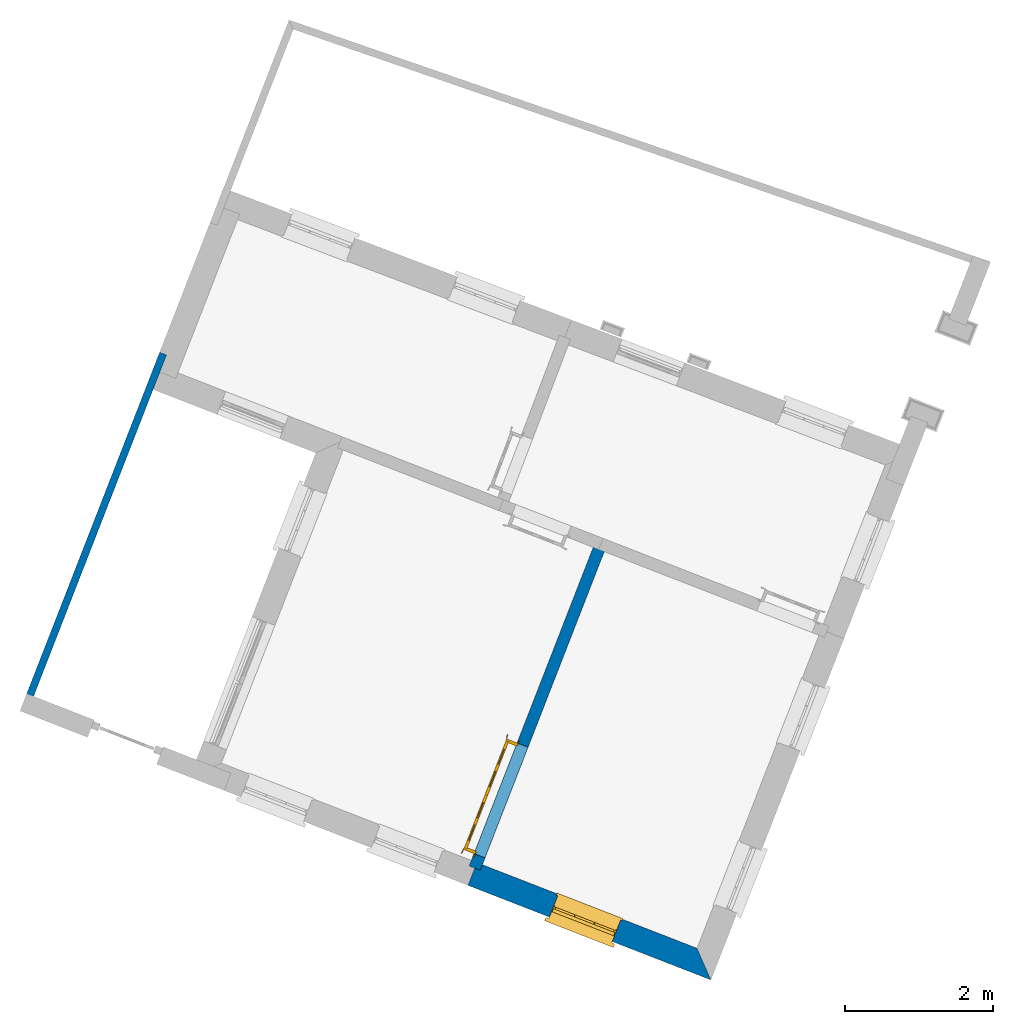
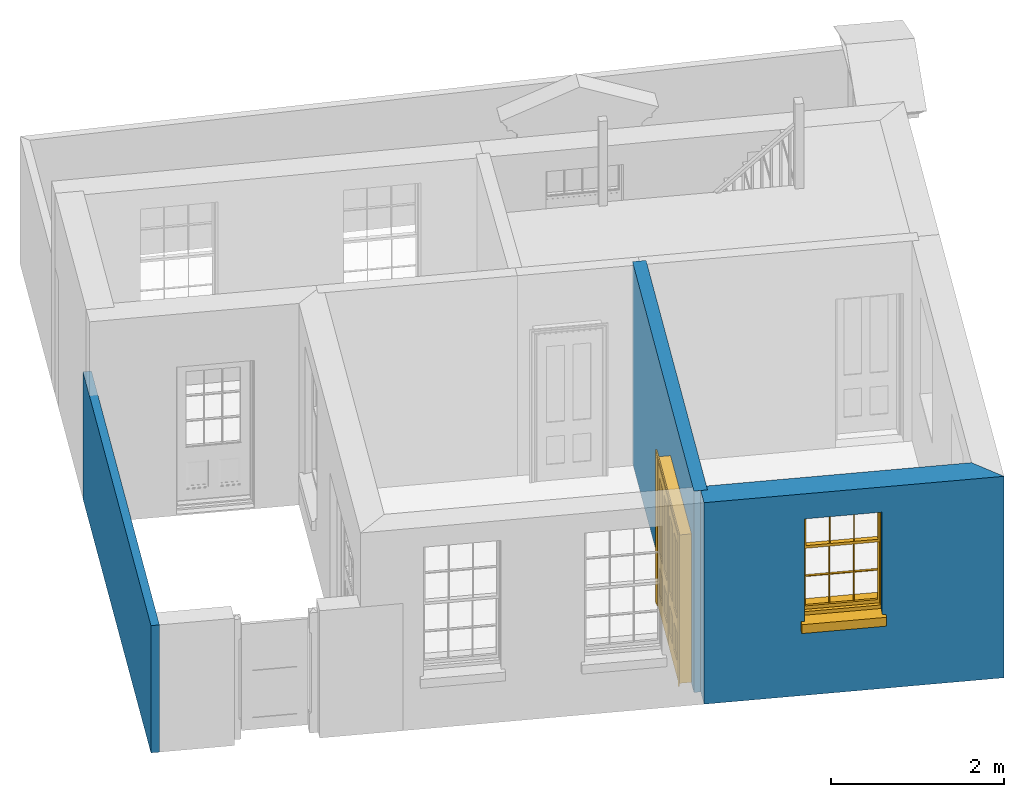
# One storey, part 2 of 10: 3 walls, 1 door, 1 window, 2 openings.
"""IFC4 building model written with IfcOpenShell, lengths in metres."""

import ifcopenshell
import ifcopenshell.guid

model = None  # the IFC model being written
_history = None  # IfcOwnerHistory: only IFC2X3 demands one
_inside = {}  # id of a spatial element -> (the spatial element, [elements in it])
_under = {}  # id of a project, library or spatial element -> (it, [spatial elements below it])
_declared = {}  # id of a project -> (the project, [libraries it declares])
_typed = {}  # id of a type object -> (the type object, [elements of that type])
_made_of = {}  # id of a material, layer set ... -> (it, [elements and type objects made of it])


def new_model(schema):
    """Start an empty IFC model of exactly this schema.

    Asked for "IFC4X3", IfcOpenShell would pick the latest addendum, in which some entities
    have other attributes; the version numbers below select the first issue.
    IFC2X3 requires an IfcOwnerHistory on every rooted entity: one is made here for all.
    """
    global model, _history
    if schema == "IFC4X3":
        model = ifcopenshell.file(schema_version=(4, 3, 0, 0))
    else:
        model = ifcopenshell.file(schema=schema)
    _inside.clear()
    _under.clear()
    _declared.clear()
    _typed.clear()
    _made_of.clear()
    _history = None
    if model.schema == "IFC2X3":
        org = make("IfcOrganization", Name="unknown")
        user = make(
            "IfcPersonAndOrganization",
            ThePerson=make("IfcPerson", FamilyName="unknown"),
            TheOrganization=org,
        )
        app = make(
            "IfcApplication",
            ApplicationDeveloper=org,
            Version="unknown",
            ApplicationFullName="unknown",
            ApplicationIdentifier="unknown",
        )
        _history = make(
            "IfcOwnerHistory",
            OwningUser=user,
            OwningApplication=app,
            ChangeAction="ADDED",
            CreationDate=0,
        )
    return model


def make(cls, **values):
    """One entity of the class cls with the attributes given. An attribute that is None is left unset."""
    return model.create_entity(
        cls, **{name: value for name, value in values.items() if value is not None}
    )


def rooted(cls, **values):
    """An entity with a GlobalId (a new one), such as an element, a storey or a relation."""
    return make(cls, GlobalId=ifcopenshell.guid.new(), OwnerHistory=_history, **values)


def si_unit(unit_type, name, prefix=None):
    """IfcSIUnit, for example si_unit("LENGTHUNIT", "METRE", prefix="MILLI")."""
    return make("IfcSIUnit", UnitType=unit_type, Prefix=prefix, Name=name)


def assignment(units):
    """IfcUnitAssignment: the units of a project."""
    return None if units is None else make("IfcUnitAssignment", Units=units)


def point(xyz):
    """IfcCartesianPoint."""
    return None if xyz is None else make("IfcCartesianPoint", Coordinates=xyz)


def direction(xyz):
    """IfcDirection."""
    return None if xyz is None else make("IfcDirection", DirectionRatios=xyz)


def frame(location, z_axis=None, x_axis=None):
    """IfcAxis2Placement3D, a coordinate frame: its origin and axes. An axis left out is left unset."""
    return make(
        "IfcAxis2Placement3D",
        Location=point(location),
        Axis=direction(z_axis),
        RefDirection=direction(x_axis),
    )


def origin():
    """The frame at (0, 0, 0) with its axes left unset."""
    return frame((0.0, 0.0, 0.0))


def origin_with_axes():
    """The frame at (0, 0, 0) with the z axis (0, 0, 1) and the x axis (1, 0, 0) written out."""
    return frame((0.0, 0.0, 0.0), z_axis=(0.0, 0.0, 1.0), x_axis=(1.0, 0.0, 0.0))


def place(relative_to, where):
    """IfcLocalPlacement: puts the frame where relative to a parent placement (None: the world)."""
    return make(
        "IfcLocalPlacement", PlacementRelTo=relative_to, RelativePlacement=where
    )


def context(
    kind, dimensions, precision=None, world=None, true_north=None, identifier=None
):
    """IfcGeometricRepresentationContext, for example the 3D "Model" context."""
    return make(
        "IfcGeometricRepresentationContext",
        ContextIdentifier=identifier,
        ContextType=kind,
        CoordinateSpaceDimension=dimensions,
        Precision=precision,
        WorldCoordinateSystem=world,
        TrueNorth=true_north,
    )


def subcontext(parent, identifier, kind, view, scale=None):
    """IfcGeometricRepresentationSubContext, for example "Body" below "Model"."""
    return make(
        "IfcGeometricRepresentationSubContext",
        ContextIdentifier=identifier,
        ContextType=kind,
        ParentContext=parent,
        TargetScale=scale,
        TargetView=view,
    )


def project(units=None, contexts=None):
    """IfcProject with its units and contexts."""
    return rooted(
        "IfcProject",
        Name="project",
        RepresentationContexts=contexts,
        UnitsInContext=assignment(units),
    )


def spatial(cls, under=None, at=None, **own):
    """A site, building, storey or space (cls), placed at a placement, below another one or the project."""
    s = rooted(cls, ObjectPlacement=at, **own)
    if under is not None:
        _under.setdefault(under.id(), (under, []))[1].append(s)
    return s


def polyline(points):
    """IfcPolyline through the points."""
    return make("IfcPolyline", Points=[point(p) for p in points])


def outline(outer, holes=None, kind="AREA"):
    """IfcArbitraryClosedProfileDef: a profile drawn as a closed curve; with holes, ...WithVoids."""
    if holes is None:
        return make("IfcArbitraryClosedProfileDef", ProfileType=kind, OuterCurve=outer)
    return make(
        "IfcArbitraryProfileDefWithVoids",
        ProfileType=kind,
        OuterCurve=outer,
        InnerCurves=holes,
    )


def extrude(swept, where, along, depth):
    """IfcExtrudedAreaSolid: the profile swept, set in the frame where, extruded along a direction by depth."""
    return make(
        "IfcExtrudedAreaSolid",
        SweptArea=swept,
        Position=where,
        ExtrudedDirection=direction(along),
        Depth=depth,
    )


def faces_of(points, faces, orient=None, outer=None):
    """IfcFace entities. A face is a list of loops; a loop is a list of indices into points, from 0.

    orient and outer hold one flag for each loop. By default every Orientation is true, the
    first loop of a face is its IfcFaceOuterBound and the others are IfcFaceBound.
    """
    made = []
    for i, loops in enumerate(faces):
        bounds = []
        for j, loop in enumerate(loops):
            is_outer = j == 0 if outer is None else outer[i][j]
            bounds.append(
                make(
                    "IfcFaceOuterBound" if is_outer else "IfcFaceBound",
                    Bound=make("IfcPolyLoop", Polygon=[points[k] for k in loop]),
                    Orientation=True if orient is None else orient[i][j],
                )
            )
        made.append(make("IfcFace", Bounds=bounds))
    return made


def faceted_brep(points, faces, orient=None, outer=None, voids=None):
    """IfcFacetedBrep: a solid bounded by flat faces; with voids (closed shells), ...WithVoids."""
    shared = [point(p) for p in points]
    hull = make("IfcClosedShell", CfsFaces=faces_of(shared, faces, orient, outer))
    if voids is None:
        return make("IfcFacetedBrep", Outer=hull)
    return make(
        "IfcFacetedBrepWithVoids",
        Outer=hull,
        Voids=[
            make(cls, CfsFaces=faces_of(shared, fs, o, b)) for cls, fs, o, b in voids
        ],
    )


def shape(context_of_items, identifier, shape_type, items):
    """IfcShapeRepresentation: the items that make up one representation, for example the "Body"."""
    return make(
        "IfcShapeRepresentation",
        ContextOfItems=context_of_items,
        RepresentationIdentifier=identifier,
        RepresentationType=shape_type,
        Items=items,
    )


def source(mapping_origin, context_of_items, identifier, shape_type, items):
    """IfcRepresentationMap: a shape defined once, which mapped items show again and again."""
    return make(
        "IfcRepresentationMap",
        MappingOrigin=mapping_origin,
        MappedRepresentation=shape(context_of_items, identifier, shape_type, items),
    )


def transform(
    local_origin,
    x_axis=None,
    y_axis=None,
    z_axis=None,
    scale=None,
    scale2=None,
    scale3=None,
    uniform=True,
):
    """IfcCartesianTransformationOperator3D, or its non-uniform kind. x_axis, y_axis, z_axis: its Axis1, 2, 3."""
    if uniform:
        return make(
            "IfcCartesianTransformationOperator3D",
            Axis1=direction(x_axis),
            Axis2=direction(y_axis),
            LocalOrigin=point(local_origin),
            Scale=scale,
            Axis3=direction(z_axis),
        )
    return make(
        "IfcCartesianTransformationOperator3DnonUniform",
        Axis1=direction(x_axis),
        Axis2=direction(y_axis),
        LocalOrigin=point(local_origin),
        Scale=scale,
        Axis3=direction(z_axis),
        Scale2=scale2,
        Scale3=scale3,
    )


def mapped(mapping_source, mapping_target):
    """IfcMappedItem: shows the shape of a source again, moved by a transform."""
    return make(
        "IfcMappedItem", MappingSource=mapping_source, MappingTarget=mapping_target
    )


def material(Name=None, Category=None):
    """IfcMaterial."""
    return make("IfcMaterial", Name=Name, Category=Category)


def layer(
    of_material, thickness, ventilated=None, Name=None, Category=None, Priority=None
):
    """IfcMaterialLayer: one layer of a wall or slab, of a material (None: an air gap)."""
    return make(
        "IfcMaterialLayer",
        Material=of_material,
        LayerThickness=thickness,
        IsVentilated=ventilated,
        Name=Name,
        Category=Category,
        Priority=Priority,
    )


def layer_set(layers, Name=None):
    """IfcMaterialLayerSet."""
    return make("IfcMaterialLayerSet", MaterialLayers=layers, LayerSetName=Name)


def layer_usage(for_layer_set, set_direction, sense, offset, extent=None):
    """IfcMaterialLayerSetUsage: how a layer set lies in its element."""
    return make(
        "IfcMaterialLayerSetUsage",
        ForLayerSet=for_layer_set,
        LayerSetDirection=set_direction,
        DirectionSense=sense,
        OffsetFromReferenceLine=offset,
        ReferenceExtent=extent,
    )


def made_of(thing, what):
    """Note that an element or type object is made of a material, layer set ...; save() writes the relation."""
    if what is not None:
        _made_of.setdefault(what.id(), (what, []))[1].append(thing)
    return thing


def type_object(cls, material=None, **own):
    """A type object (cls), such as IfcWallType, which elements share."""
    return made_of(rooted(cls, **own), material)


def type_shapes(of_type, sources):
    """Give a type object the sources (RepresentationMaps) that its elements show as mapped items."""
    of_type.RepresentationMaps = sources


def element(
    cls,
    number,
    at=None,
    inside=None,
    cuts=None,
    type_object=None,
    material=None,
    context=None,
    identifier="Body",
    shape_type=None,
    held_by="IfcProductDefinitionShape",
    body=None,
    shapes=None,
    **own,
):
    """One element of the class cls, such as IfcWall. Its Tag is "e" and its number.

    at: its placement. inside: the storey or other place that contains it. cuts: it is an
    opening in that element (IfcRelVoidsElement). A single representation is given by context,
    identifier, shape_type and body (its items); several are given by shapes. held_by: the class
    of the entity that holds the representations. save() writes the other relations.
    """
    e = rooted(cls, Tag="e%d" % number, ObjectPlacement=at, **own)
    if body is not None:
        shapes = [shape(context, identifier, shape_type, body)]
    if shapes is not None:
        e.Representation = make(held_by, Representations=shapes)
    if inside is not None:
        _inside.setdefault(inside.id(), (inside, []))[1].append(e)
    if cuts is not None:
        rooted(
            "IfcRelVoidsElement", RelatingBuildingElement=cuts, RelatedOpeningElement=e
        )
    if type_object is not None:
        _typed.setdefault(type_object.id(), (type_object, []))[1].append(e)
    return made_of(e, material)


def fill(opening, filler):
    """IfcRelFillsElement: the door or window that sits in an opening."""
    return rooted(
        "IfcRelFillsElement",
        RelatingOpeningElement=opening,
        RelatedBuildingElement=filler,
    )


def aggregate(whole, parts):
    """IfcRelAggregates: a whole, such as a stair, and the parts it consists of."""
    return rooted("IfcRelAggregates", RelatingObject=whole, RelatedObjects=parts)


def save(model, path):
    """Write the relations noted so far, then the file.

    IfcRelAggregates (storeys below a building ...), IfcRelContainedInSpatialStructure (elements
    in a storey), IfcRelDefinesByType, IfcRelAssociatesMaterial and IfcRelDeclares: one each for
    every whole, place, type object, material and project.
    """
    for whole, parts in _under.values():
        aggregate(whole, parts)
    for where, things in _inside.values():
        rooted(
            "IfcRelContainedInSpatialStructure",
            RelatedElements=things,
            RelatingStructure=where,
        )
    for kind, things in _typed.values():
        rooted("IfcRelDefinesByType", RelatedObjects=things, RelatingType=kind)
    for what, things in _made_of.values():
        rooted("IfcRelAssociatesMaterial", RelatedObjects=things, RelatingMaterial=what)
    for by, libraries in _declared.values():
        rooted("IfcRelDeclares", RelatingContext=by, RelatedDefinitions=libraries)
    model.write(path)


model = new_model("IFC4")

# Units and contexts
model_context = context("Model", 3, world=origin_with_axes())
body_context = subcontext(model_context, "Body", "Model", "MODEL_VIEW")
ifc_project = project(units=[si_unit("PLANEANGLEUNIT", "RADIAN"), si_unit("MASSUNIT", "GRAM", prefix="KILO"), si_unit("FORCEUNIT", "NEWTON", prefix="KILO"), si_unit("LENGTHUNIT", "METRE"), si_unit("AREAUNIT", "SQUARE_METRE"), si_unit("VOLUMEUNIT", "CUBIC_METRE")], contexts=[model_context, model_context])

# Sites, building, storey
site_1_placement = place(None, origin_with_axes())
site_1 = spatial("IfcSite", under=ifc_project, at=site_1_placement, Name="Tamar")
site_2_placement = place(site_1_placement, origin_with_axes())
site_2 = spatial("IfcSite", under=site_1, at=site_2_placement, Name="Site plot-8", CompositionType="ELEMENT")
building_placement = place(None, origin_with_axes())
building = spatial("IfcBuilding", under=site_2, at=building_placement, Name="Building plot-8", CompositionType="ELEMENT")
storey_placement = place(None, frame((0.0, 0.0, 26.0), z_axis=(0.0, 0.0, 1.0), x_axis=(1.0, 0.0, 0.0)))
storey = spatial("IfcBuildingStorey", under=building, at=storey_placement, Name="plot-8 0", CompositionType="ELEMENT", Elevation=26.0)

# Wall, opening, window
ifc_material_1 = material(Name="Masonry")
ifc_layer_1 = layer(ifc_material_1, 0.33, ventilated=False)
ifc_layer_set_1 = layer_set([ifc_layer_1], Name="exterior_0.08_0.25")
ifc_layer_usage_1 = layer_usage(ifc_layer_set_1, "AXIS2", "POSITIVE", -0.25)
wall_type_1 = type_object("IfcWallType", Name="exterior_0.08_0.25", PredefinedType="SOLIDWALL", material=ifc_layer_set_1)
wall_1_placement = place(storey_placement, frame((225.798511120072, 303.582129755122, 0.0), z_axis=(0.0, 0.0, 1.0), x_axis=(0.93186385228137, -0.362808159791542, 0.0)))
wall_1 = element("IfcWall", 1, at=wall_1_placement, inside=storey, type_object=wall_type_1, material=ifc_layer_usage_1, Name="exterior", context=body_context, shape_type="SweptSolid", body=[
    extrude(outline(polyline([(1.05919853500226e-14, 0.0800000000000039), (-1.33686005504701e-14, -0.250000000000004), (3.51698581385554, -0.250000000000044), (3.18698581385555, 0.0800000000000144), (1.05919853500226e-14, 0.0800000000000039)])), origin_with_axes(), (0.0, 0.0, 1.0), 2.85),
])
opening_1_placement = place(wall_1_placement, frame((1.17849290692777, 0.0, 1.05)))
opening_1 = element("IfcOpeningElement", 2, at=opening_1_placement, cuts=wall_1, Name="My Opening", ObjectType="Opening", context=body_context, shape_type="SweptSolid", body=[
    extrude(outline(polyline([(0.0, -0.270000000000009), (0.909999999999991, -0.269999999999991), (0.909999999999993, 1.10000000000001), (2.66453525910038e-15, 1.09999999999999), (0.0, -0.270000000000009)])), origin_with_axes(), (0.0, 0.0, 1.0), 1.445),
])
window_type = type_object("IfcWindowType", Name="sash_shorter", PartitioningType="DOUBLE_PANEL_HORIZONTAL", PredefinedType="NOTDEFINED")
shared_shape_1 = source(origin(), body_context, "Body", "Brep", [
    faceted_brep([(0.876875, 0.145, 0.999097), (0.876875, 0.145, 1.411875), (0.9, 0.145, 1.435), (0.033125, 0.145, 1.411875), (0.033125, 0.145, 0.999097), (0.01, 0.145, 1.435), (0.033125, 0.115, 1.411875), (0.01, 0.115, 1.435), (0.033125, 0.115, 0.999097), (0.876875, 0.115, 1.411875), (0.876875, 0.115, 0.999097), (0.9, 0.115, 1.435), (0.033125, 0.145, 0.960972), (0.01, 0.145, 0.960972), (0.033125, 0.145, 0.548195), (0.876875, 0.145, 0.960972), (0.876875, 0.145, 0.548195), (0.9, 0.145, 0.960972), (0.876875, 0.145, 0.538195), (0.876875, 0.145, 0.125417), (0.9, 0.145, 0.077167), (0.033125, 0.145, 0.125417), (0.033125, 0.145, 0.538195), (0.01, 0.145, 0.077167), (0.9, 0.115, 0.960972), (0.01, 0.115, 0.960972), (-0.0425, 0.0, 0.01), (-0.0425, -0.05, 0.001667), (0.0, 0.0, 0.01), (0.9525, 0.0, 0.01), (0.91, 0.0, 0.01), (0.9525, -0.05, 0.001667), (-0.02, 0.33, 0.077167), (0.0, 0.33, 0.077167), (-0.02, 0.36, 0.077167), (0.0, 0.19, 0.077167), (0.01, 0.19, 0.077167), (0.91, 0.19, 0.077167), (0.91, 0.33, 0.077167), (0.9, 0.19, 0.077167), (0.93, 0.33, 0.077167), (0.93, 0.36, 0.077167), (0.01, 0.145, 0.999097), (0.01, 0.175, 0.999097), (0.9, 0.145, 0.999097), (0.9, 0.175, 0.999097), (0.876875, 0.175, 0.125417), (0.876875, 0.175, 0.538195), (0.9, 0.175, 0.077167), (0.876875, 0.175, 0.548195), (0.876875, 0.175, 0.960972), (0.033125, 0.175, 0.125417), (0.01, 0.175, 0.077167), (0.033125, 0.175, 0.538195), (0.033125, 0.175, 0.960972), (0.033125, 0.175, 0.548195), (-0.02, 0.33, 0.052167), (-0.02, 0.36, 0.052167), (0.93, 0.36, 0.052167), (0.93, 0.33, 0.052167), (0.91, 0.33, 0.052167), (0.0, 0.33, 0.052167), (0.91, 0.1, 0.026667), (0.0, 0.1, 0.026667), (-0.0425, -0.05, -0.123333), (0.9525, -0.05, -0.123333), (-0.0425, 0.0, -0.123333), (0.9525, 0.0, -0.123333), (0.01, 0.19, 1.435), (0.9, 0.19, 1.435), (0.0, 0.19, 1.445), (0.91, 0.19, 1.445), (0.01, 0.1, 0.077167), (0.9, 0.1, 0.077167), (0.592292, 0.145, 0.125417), (0.592292, 0.175, 0.125417), (0.317708, 0.175, 0.125417), (0.317708, 0.145, 0.125417), (0.592292, 0.145, 0.548195), (0.317708, 0.145, 0.548195), (0.317708, 0.145, 0.538195), (0.592292, 0.145, 0.538195), (0.592292, 0.175, 0.548195), (0.317708, 0.175, 0.548195), (0.602292, 0.175, 0.548195), (0.602292, 0.145, 0.548195), (0.317708, 0.175, 0.538195), (0.307708, 0.175, 0.125417), (0.307708, 0.175, 0.538195), (0.602292, 0.175, 0.538195), (0.602292, 0.175, 0.125417), (0.592292, 0.175, 0.538195), (0.307708, 0.175, 0.548195), (0.317708, 0.175, 0.960972), (0.307708, 0.175, 0.960972), (0.602292, 0.175, 0.960972), (0.592292, 0.175, 0.960972), (0.307708, 0.145, 0.538195), (0.307708, 0.145, 0.125417), (0.307708, 0.145, 0.548195), (0.307708, 0.145, 0.960972), (0.592292, 0.145, 0.960972), (0.317708, 0.145, 0.960972), (0.602292, 0.145, 0.960972), (0.602292, 0.145, 0.538195), (0.602292, 0.145, 0.125417), (0.317708, 0.115, 1.411875), (0.307708, 0.115, 1.411875), (0.307708, 0.115, 0.999097), (0.317708, 0.115, 0.999097), (0.602292, 0.115, 1.411875), (0.592292, 0.115, 1.411875), (0.592292, 0.115, 0.999097), (0.602292, 0.115, 0.999097), (0.317708, 0.145, 0.999097), (0.307708, 0.145, 0.999097), (0.307708, 0.145, 1.411875), (0.317708, 0.145, 1.411875), (0.602292, 0.145, 0.999097), (0.592292, 0.145, 0.999097), (0.592292, 0.145, 1.411875), (0.602292, 0.145, 1.411875), (0.91, 0.1, 1.445), (0.9, 0.1, 1.435), (0.01, 0.1, 1.435), (0.0, 0.1, 1.445), (0.91, 0.0, 0.0), (0.0, 0.0, 0.0), (0.91, 0.33, 0.0), (0.0, 0.33, 0.0)], [[[0, 1, 2]], [[3, 4, 5]], [[6, 7, 8]], [[9, 10, 11]], [[12, 13, 14]], [[15, 16, 17]], [[18, 19, 20]], [[21, 22, 23]], [[24, 15, 17]], [[13, 12, 25]], [[26, 27, 28]], [[29, 30, 31]], [[32, 33, 34]], [[35, 36, 33]], [[37, 38, 39]], [[40, 41, 38]], [[42, 4, 43]], [[44, 45, 0]], [[46, 47, 48]], [[49, 50, 45]], [[51, 52, 53]], [[54, 55, 43]], [[38, 33, 36, 39]], [[41, 34, 33, 38]], [[56, 32, 34, 57]], [[57, 34, 41, 58]], [[58, 41, 40, 59]], [[57, 58, 60, 61]], [[52, 48, 39, 36]], [[62, 63, 28, 30]], [[27, 31, 30, 28]], [[27, 64, 65, 31]], [[66, 67, 65, 64]], [[2, 5, 68, 69]], [[68, 70, 71, 69]], [[20, 23, 72, 73]], [[73, 72, 63, 62]], [[74, 75, 76, 77]], [[78, 79, 80, 81]], [[78, 82, 83, 79]], [[16, 49, 84, 85]], [[86, 76, 87, 88]], [[89, 90, 75, 91]], [[92, 88, 53, 55]], [[82, 91, 86, 83]], [[93, 83, 92, 94]], [[95, 84, 82, 96]], [[89, 84, 49, 47]], [[97, 88, 87, 98]], [[22, 53, 88, 97]], [[81, 91, 75, 74]], [[80, 86, 91, 81]], [[77, 76, 86, 80]], [[99, 92, 55, 14]], [[100, 94, 92, 99]], [[101, 96, 82, 78]], [[79, 83, 93, 102]], [[85, 84, 95, 103]], [[104, 89, 47, 18]], [[105, 90, 89, 104]], [[104, 18, 16, 85]], [[80, 97, 98, 77]], [[104, 81, 74, 105]], [[103, 101, 78, 85]], [[99, 14, 22, 97]], [[102, 100, 99, 79]], [[106, 107, 108, 109]], [[110, 111, 112, 113]], [[114, 115, 116, 117]], [[118, 119, 120, 121]], [[107, 116, 115, 108]], [[111, 120, 119, 112]], [[109, 114, 117, 106]], [[113, 118, 121, 110]], [[85, 78, 81, 104]], [[84, 89, 91, 82]], [[83, 86, 88, 92]], [[79, 99, 97, 80]], [[109, 112, 119, 114]], [[102, 93, 96, 101]], [[106, 117, 120, 111]], [[98, 87, 51, 21]], [[6, 3, 116, 107]], [[110, 121, 1, 9]], [[19, 46, 90, 105]], [[26, 66, 64, 27]], [[29, 31, 65, 67]], [[25, 24, 112, 109]], [[11, 7, 106, 111]], [[75, 48, 52, 76]], [[43, 45, 96, 93]], [[45, 43, 114, 119]], [[5, 2, 120, 117]], [[24, 25, 102, 101]], [[42, 5, 4]], [[2, 44, 0]], [[49, 45, 48, 47]], [[52, 43, 55, 53]], [[14, 13, 23, 22]], [[20, 17, 16, 18]], [[24, 11, 10]], [[25, 8, 7]], [[8, 4, 3, 6]], [[9, 1, 0, 10]], [[15, 50, 49, 16]], [[18, 47, 46, 19]], [[21, 51, 53, 22]], [[14, 55, 54, 12]], [[44, 2, 69, 45]], [[68, 5, 42, 43]], [[36, 35, 70, 68]], [[39, 69, 71, 37]], [[62, 122, 123, 73]], [[63, 72, 124, 125]], [[8, 108, 115, 4]], [[113, 10, 0, 118]], [[94, 100, 12, 54]], [[17, 20, 73, 24]], [[72, 23, 13, 25]], [[52, 36, 68, 43]], [[69, 39, 48, 45]], [[11, 24, 73, 123]], [[7, 124, 72, 25]], [[23, 77, 98]], [[98, 21, 23]], [[105, 74, 20]], [[20, 19, 105]], [[20, 74, 77, 23]], [[113, 112, 24]], [[24, 10, 113]], [[25, 109, 108]], [[108, 8, 25]], [[110, 9, 11]], [[11, 111, 110]], [[7, 6, 107]], [[107, 106, 7]], [[5, 117, 116]], [[116, 3, 5]], [[121, 120, 2]], [[2, 1, 121]], [[11, 123, 124, 7]], [[122, 125, 124, 123]], [[43, 93, 94]], [[94, 54, 43]], [[96, 45, 95]], [[50, 95, 45]], [[15, 103, 95, 50]], [[48, 75, 90]], [[90, 46, 48]], [[87, 76, 52]], [[52, 51, 87]], [[103, 15, 24]], [[24, 101, 103]], [[100, 102, 25]], [[25, 12, 100]], [[115, 114, 43]], [[43, 4, 115]], [[118, 0, 45]], [[45, 119, 118]], [[71, 70, 125, 122]], [[70, 35, 63, 125]], [[122, 62, 37, 71]], [[126, 67, 66, 127]], [[60, 58, 59]], [[38, 60, 59, 40]], [[61, 56, 57]], [[32, 56, 61, 33]], [[61, 60, 128, 129]], [[62, 60, 38, 37]], [[126, 128, 60, 62]], [[33, 61, 63, 35]], [[61, 129, 127, 63]], [[128, 126, 127, 129]], [[28, 127, 66, 26]], [[63, 127, 28]], [[29, 67, 126, 30]], [[30, 126, 62]]]),
])
type_shapes(window_type, [shared_shape_1])
window_placement = place(storey_placement, frame((226.798747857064, 302.902959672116, 1.05), z_axis=(0.0, 0.0, 1.0), x_axis=(0.847996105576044, -0.330155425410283, 0.0)))
window = element("IfcWindow", 3, at=window_placement, inside=storey, type_object=window_type, Name="kitchen street window", OverallHeight=1.445, OverallWidth=0.91, context=body_context, shape_type="MappedRepresentation", body=[
    mapped(shared_shape_1, transform((0.0, 0.0, 0.0), scale=1.0)),
])
fill(opening_1, window)

# Wall, opening, door
ifc_material_2 = material(Name="Masonry")
ifc_layer_2 = layer(ifc_material_2, 0.16, ventilated=False)
ifc_layer_set_2 = layer_set([ifc_layer_2], Name="interior_0.08_0.08")
ifc_layer_usage_2 = layer_usage(ifc_layer_set_2, "AXIS2", "POSITIVE", -0.08)
wall_type_2 = type_object("IfcWallType", Name="interior_0.08_0.08", PredefinedType="SOLIDWALL", material=ifc_layer_set_2)
wall_2_placement = place(storey_placement, frame((225.798511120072, 303.582129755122, 0.0), z_axis=(0.0, 0.0, 1.0), x_axis=(0.362808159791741, 0.931863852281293, 0.0)))
wall_2 = element("IfcWall", 4, at=wall_2_placement, inside=storey, type_object=wall_type_2, material=ifc_layer_usage_2, Name="interior", context=body_context, shape_type="SweptSolid", body=[
    extrude(outline(polyline([(-6.46104030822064e-15, 0.0800000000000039), (6.47083748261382e-15, -0.0800000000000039), (4.69140201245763, -0.0800000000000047), (4.69140201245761, 0.0800000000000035), (-6.46104030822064e-15, 0.0800000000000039)])), origin_with_axes(), (0.0, 0.0, 1.0), 2.85),
])
opening_2_placement = place(wall_2_placement, frame((0.180000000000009, 0.0, 0.0199999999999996)))
opening_2 = element("IfcOpeningElement", 5, at=opening_2_placement, cuts=wall_2, Name="My Opening", ObjectType="Opening", context=body_context, shape_type="SweptSolid", body=[
    extrude(outline(polyline([(0.0, -0.100000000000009), (1.6, -0.0999999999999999), (1.60000000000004, 1.10000000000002), (3.98014954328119e-14, 1.10000000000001), (0.0, -0.100000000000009)])), origin_with_axes(), (0.0, 0.0, 1.0), 2.1),
])
door_type = type_object("IfcDoorType", Name="door_inside_double", OperationType="SINGLE_SWING_LEFT", PredefinedType="NOTDEFINED")
shared_shape_2 = source(origin(), body_context, "Body", "Brep", [
    faceted_brep([(0.14, 0.307, 1.895), (0.14, 0.307, 0.82), (0.363, 0.307, 0.82), (0.363, 0.307, 1.895), (0.14, 0.292, 1.895), (0.14, 0.292, 0.82), (0.363, 0.292, 0.82), (0.363, 0.292, 1.895), (0.027, 0.292, 1.895), (0.027, 0.292, 0.82), (0.363, 0.292, 0.62), (0.14, 0.292, 0.62), (0.463, 0.292, 0.82), (0.463, 0.292, 1.895), (0.363, 0.292, 2.073), (0.14, 0.292, 2.073), (0.027, 0.292, 2.073), (0.027, 0.33, 1.895), (0.027, 0.33, 0.82), (0.027, 0.292, 0.62), (0.463, 0.292, 0.62), (0.14, 0.307, 0.62), (0.363, 0.307, 0.62), (0.463, 0.307, 0.82), (0.463, 0.307, 1.895), (0.463, 0.292, 2.073), (0.14, 0.33, 2.073), (0.363, 0.33, 2.073), (0.027, 0.33, 2.073), (0.14, 0.33, 1.895), (0.14, 0.33, 0.82), (0.027, 0.33, 0.62), (0.027, 0.292, 0.225), (0.14, 0.292, 0.225), (0.363, 0.292, 0.225), (0.463, 0.292, 0.225), (0.686, 0.292, 0.62), (0.686, 0.292, 0.82), (0.14, 0.307, 0.225), (0.363, 0.307, 0.225), (0.686, 0.307, 0.82), (0.686, 0.307, 1.895), (0.686, 0.292, 1.895), (0.686, 0.292, 2.073), (0.463, 0.33, 2.073), (0.363, 0.33, 1.895), (0.14, 0.315, 1.895), (0.14, 0.315, 0.82), (0.14, 0.33, 0.62), (0.027, 0.33, 0.225), (0.027, 0.292, 0.0), (0.14, 0.292, 0.0), (0.363, 0.292, 0.0), (0.463, 0.292, 0.0), (0.463, 0.307, 0.225), (0.463, 0.307, 0.62), (0.686, 0.307, 0.62), (0.799, 0.292, 0.62), (0.799, 0.292, 0.82), (0.799, 0.292, 1.895), (0.799, 0.292, 2.073), (0.686, 0.33, 2.073), (0.463, 0.33, 1.895), (0.363, 0.315, 1.895), (0.363, 0.315, 0.82), (0.363, 0.33, 0.82), (0.363, 0.33, 0.62), (0.14, 0.33, 0.225), (0.027, 0.33, 0.0), (0.14, 0.33, 0.0), (0.363, 0.33, 0.0), (0.463, 0.33, 0.0), (0.686, 0.292, 0.0), (0.686, 0.292, 0.225), (0.686, 0.307, 0.225), (0.799, 0.292, 0.225), (0.799, 0.33, 0.62), (0.799, 0.33, 0.82), (0.799, 0.33, 1.895), (0.799, 0.33, 2.073), (0.686, 0.33, 1.895), (0.463, 0.33, 0.82), (0.463, 0.33, 0.62), (0.363, 0.315, 0.62), (0.14, 0.315, 0.62), (0.14, 0.315, 0.225), (0.363, 0.33, 0.225), (0.463, 0.33, 0.225), (0.686, 0.33, 0.0), (0.799, 0.292, 0.0), (0.799, 0.33, 0.225), (0.686, 0.33, 0.62), (0.686, 0.33, 0.82), (0.686, 0.315, 1.895), (0.463, 0.315, 1.895), (0.463, 0.315, 0.82), (0.363, 0.315, 0.225), (0.686, 0.33, 0.225), (0.799, 0.33, 0.0), (0.686, 0.315, 0.82), (0.463, 0.315, 0.62), (0.463, 0.315, 0.225), (0.686, 0.315, 0.62), (0.686, 0.315, 0.225), (1.46, 0.33, 1.895), (1.237, 0.33, 1.895), (1.237, 0.33, 2.073), (1.46, 0.33, 2.073), (1.46, 0.315, 1.895), (1.237, 0.315, 1.895), (1.137, 0.33, 1.895), (1.137, 0.33, 2.073), (1.237, 0.292, 2.073), (1.46, 0.292, 2.073), (1.573, 0.33, 1.895), (1.573, 0.33, 2.073), (1.46, 0.33, 0.82), (1.46, 0.315, 0.82), (1.237, 0.315, 0.82), (1.237, 0.33, 0.82), (1.137, 0.33, 0.82), (0.914, 0.33, 2.073), (0.914, 0.33, 1.895), (1.137, 0.292, 2.073), (1.237, 0.292, 1.895), (1.46, 0.292, 1.895), (1.573, 0.292, 2.073), (1.573, 0.33, 0.82), (1.573, 0.292, 1.895), (1.237, 0.33, 0.62), (1.137, 0.33, 0.62), (1.137, 0.315, 0.82), (1.137, 0.315, 1.895), (0.914, 0.292, 2.073), (0.914, 0.315, 1.895), (0.801, 0.33, 2.073), (0.801, 0.33, 1.895), (1.137, 0.292, 1.895), (1.237, 0.307, 1.895), (1.46, 0.307, 1.895), (1.573, 0.292, 0.82), (1.573, 0.33, 0.62), (1.46, 0.33, 0.62), (1.237, 0.33, 0.225), (1.137, 0.33, 0.225), (0.914, 0.33, 0.82), (0.914, 0.33, 0.62), (0.914, 0.315, 0.82), (0.801, 0.292, 2.073), (0.914, 0.292, 1.895), (0.801, 0.33, 0.82), (0.801, 0.292, 1.895), (1.137, 0.292, 0.82), (1.237, 0.292, 0.82), (1.237, 0.307, 0.82), (1.46, 0.307, 0.82), (1.46, 0.292, 0.82), (1.573, 0.292, 0.62), (1.573, 0.33, 0.225), (1.46, 0.33, 0.225), (1.46, 0.315, 0.62), (1.237, 0.315, 0.62), (1.237, 0.33, 0.0), (1.137, 0.33, 0.0), (1.137, 0.315, 0.225), (1.137, 0.315, 0.62), (1.237, 0.315, 0.225), (0.914, 0.315, 0.62), (0.801, 0.33, 0.62), (0.914, 0.307, 1.895), (1.137, 0.307, 1.895), (0.801, 0.292, 0.82), (1.137, 0.292, 0.62), (1.237, 0.292, 0.62), (1.137, 0.307, 0.82), (1.46, 0.292, 0.62), (1.573, 0.292, 0.225), (1.573, 0.33, 0.0), (1.46, 0.33, 0.0), (1.46, 0.315, 0.225), (1.237, 0.292, 0.0), (1.137, 0.292, 0.0), (0.914, 0.33, 0.225), (0.914, 0.33, 0.0), (0.914, 0.315, 0.225), (0.801, 0.33, 0.225), (0.801, 0.292, 0.62), (0.914, 0.292, 0.82), (0.914, 0.307, 0.82), (1.137, 0.292, 0.225), (1.237, 0.292, 0.225), (0.914, 0.292, 0.62), (1.46, 0.292, 0.225), (1.573, 0.292, 0.0), (1.46, 0.292, 0.0), (0.914, 0.292, 0.0), (0.801, 0.33, 0.0), (0.801, 0.292, 0.225), (1.237, 0.307, 0.225), (1.237, 0.307, 0.62), (1.137, 0.307, 0.62), (1.137, 0.307, 0.225), (1.46, 0.307, 0.62), (0.914, 0.307, 0.62), (1.46, 0.307, 0.225), (0.914, 0.292, 0.225), (0.801, 0.292, 0.0), (0.914, 0.307, 0.225), (0.02, 0.335, 0.0), (0.005, 0.34, 0.0), (0.005, 0.34, 2.095), (0.02, 0.335, 2.08), (0.02, 0.33, 0.0), (0.0, 0.335, 0.0), (0.0, 0.335, 2.1), (1.595, 0.34, 2.095), (1.58, 0.335, 2.08), (0.02, 0.33, 2.08), (0.0, 0.33, 0.0), (-0.032, 0.345, 0.0), (-0.032, 0.345, 2.132), (1.6, 0.335, 2.1), (1.595, 0.34, 0.0), (1.58, 0.335, 0.0), (1.58, 0.33, 2.08), (0.025, 0.33, 0.0), (0.025, 0.33, 2.075), (-0.04, 0.34, 0.0), (0.025, 0.29, 0.0), (0.0, 0.17, 0.0), (-0.04, 0.34, 2.14), (1.632, 0.345, 2.132), (1.6, 0.335, 0.0), (1.58, 0.33, 0.0), (1.575, 0.33, 2.075), (0.025, 0.29, 2.075), (-0.06, 0.33, 0.0), (0.035, 0.17, 0.0), (0.0, 0.17, 2.1), (0.0, 0.33, 2.1), (-0.04, 0.345, 0.0), (-0.04, 0.345, 2.14), (1.64, 0.34, 2.14), (1.632, 0.345, 0.0), (1.6, 0.33, 0.0), (1.575, 0.33, 0.0), (1.575, 0.29, 2.075), (0.04, 0.29, 0.0), (0.04, 0.29, 2.06), (-0.06, 0.345, 0.0), (-0.06, 0.33, 2.16), (0.015, 0.165, 0.0), (0.04, 0.17, 0.0), (-0.045, 0.17, 2.145), (-0.045, 0.17, 0.0), (1.6, 0.17, 2.1), (1.6, 0.33, 2.1), (-0.06, 0.345, 2.16), (1.64, 0.345, 2.14), (1.64, 0.34, 0.0), (1.6, 0.17, 0.0), (1.575, 0.29, 0.0), (1.56, 0.29, 2.06), (0.04, 0.17, 2.06), (1.66, 0.33, 2.16), (-0.017, 0.155, 0.0), (-0.025, 0.16, 0.0), (0.02, 0.16, 0.0), (0.035, 0.165, 0.0), (0.035, 0.17, 2.065), (1.645, 0.17, 2.145), (-0.045, 0.155, 2.145), (-0.045, 0.155, 0.0), (1.66, 0.345, 2.16), (1.64, 0.345, 0.0), (1.66, 0.33, 0.0), (1.565, 0.17, 0.0), (1.56, 0.29, 0.0), (1.56, 0.17, 2.06), (-0.017, 0.155, 2.117), (-0.025, 0.16, 2.125), (0.015, 0.165, 2.085), (0.02, 0.16, 2.08), (0.035, 0.165, 2.065), (1.565, 0.17, 2.065), (1.645, 0.17, 0.0), (1.645, 0.155, 2.145), (-0.025, 0.155, 0.0), (1.66, 0.345, 0.0), (1.585, 0.165, 0.0), (1.56, 0.17, 0.0), (1.617, 0.155, 2.117), (1.625, 0.16, 2.125), (-0.025, 0.155, 2.125), (1.585, 0.165, 2.085), (1.58, 0.16, 2.08), (1.565, 0.165, 2.065), (1.625, 0.16, 0.0), (1.645, 0.155, 0.0), (1.625, 0.155, 2.125), (1.617, 0.155, 0.0), (1.565, 0.165, 0.0), (1.58, 0.16, 0.0), (1.625, 0.155, 0.0)], [[[0, 1, 2, 3]], [[1, 0, 4, 5]], [[2, 1, 5, 6]], [[6, 7, 3, 2]], [[7, 4, 0, 3]], [[4, 8, 9, 5]], [[10, 6, 5, 11]], [[6, 12, 13, 7]], [[14, 15, 4, 7]], [[15, 16, 8, 4]], [[9, 8, 17, 18]], [[5, 9, 19, 11]], [[10, 20, 12, 6]], [[10, 11, 21, 22]], [[13, 12, 23, 24]], [[7, 13, 25, 14]], [[26, 15, 14, 27]], [[28, 16, 15, 26]], [[8, 16, 28, 17]], [[17, 29, 30, 18]], [[18, 31, 19, 9]], [[11, 19, 32, 33]], [[34, 35, 20, 10]], [[20, 36, 37, 12]], [[11, 33, 38, 21]], [[39, 22, 21, 38]], [[34, 10, 22, 39]], [[12, 37, 40, 23]], [[24, 23, 40, 41]], [[42, 13, 24, 41]], [[13, 42, 43, 25]], [[14, 25, 44, 27]], [[26, 27, 45, 29]], [[28, 26, 29, 17]], [[30, 29, 46, 47]], [[18, 30, 48, 31]], [[31, 49, 32, 19]], [[33, 32, 50, 51]], [[52, 53, 35, 34]], [[20, 35, 54, 55]], [[36, 20, 55, 56]], [[36, 57, 58, 37]], [[33, 34, 39, 38]], [[37, 42, 41, 40]], [[42, 59, 60, 43]], [[44, 25, 43, 61]], [[62, 45, 27, 44]], [[29, 45, 63, 46]], [[46, 63, 64, 47]], [[65, 30, 47, 64]], [[30, 65, 66, 48]], [[31, 48, 67, 49]], [[68, 50, 32, 49]], [[68, 69, 51, 50]], [[34, 33, 51, 52]], [[53, 52, 70, 71]], [[53, 72, 73, 35]], [[35, 73, 74, 54]], [[55, 54, 74, 56]], [[73, 36, 56, 74]], [[73, 75, 57, 36]], [[57, 76, 77, 58]], [[37, 58, 59, 42]], [[78, 79, 60, 59]], [[60, 79, 61, 43]], [[80, 62, 44, 61]], [[81, 65, 45, 62]], [[45, 65, 64, 63]], [[82, 66, 65, 81]], [[48, 66, 83, 84]], [[67, 48, 84, 85]], [[49, 67, 69, 68]], [[52, 51, 69, 70]], [[71, 70, 86, 87]], [[72, 53, 71, 88]], [[72, 89, 75, 73]], [[75, 90, 76, 57]], [[76, 91, 92, 77]], [[78, 59, 58, 77]], [[78, 80, 61, 79]], [[62, 80, 93, 94]], [[81, 62, 94, 95]], [[87, 86, 66, 82]], [[91, 82, 81, 92]], [[66, 86, 96, 83]], [[84, 83, 96, 85]], [[86, 67, 85, 96]], [[67, 86, 70, 69]], [[88, 71, 87, 97]], [[89, 72, 88, 98]], [[89, 98, 90, 75]], [[90, 97, 91, 76]], [[80, 78, 77, 92]], [[80, 92, 99, 93]], [[99, 95, 94, 93]], [[92, 81, 95, 99]], [[87, 82, 100, 101]], [[82, 91, 102, 100]], [[97, 87, 101, 103]], [[98, 88, 97, 90]], [[91, 97, 103, 102]], [[103, 101, 100, 102]], [[104, 105, 106, 107]], [[105, 104, 108, 109]], [[105, 110, 111, 106]], [[106, 112, 113, 107]], [[114, 104, 107, 115]], [[104, 116, 117, 108]], [[117, 118, 109, 108]], [[119, 105, 109, 118]], [[119, 120, 110, 105]], [[121, 111, 110, 122]], [[123, 112, 106, 111]], [[124, 125, 113, 112]], [[126, 115, 107, 113]], [[104, 114, 127, 116]], [[114, 115, 126, 128]], [[116, 119, 118, 117]], [[129, 130, 120, 119]], [[110, 120, 131, 132]], [[121, 133, 123, 111]], [[122, 110, 132, 134]], [[135, 121, 122, 136]], [[137, 124, 112, 123]], [[125, 124, 138, 139]], [[125, 128, 126, 113]], [[114, 128, 140, 127]], [[141, 142, 116, 127]], [[142, 129, 119, 116]], [[143, 144, 130, 129]], [[145, 120, 130, 146]], [[120, 145, 147, 131]], [[134, 132, 131, 147]], [[135, 148, 133, 121]], [[123, 133, 149, 137]], [[145, 122, 134, 147]], [[136, 122, 145, 150]], [[151, 148, 135, 136]], [[152, 153, 124, 137]], [[124, 153, 154, 138]], [[138, 154, 155, 139]], [[156, 125, 139, 155]], [[156, 140, 128, 125]], [[157, 141, 127, 140]], [[158, 159, 142, 141]], [[129, 142, 160, 161]], [[162, 163, 144, 143]], [[130, 144, 164, 165]], [[143, 129, 161, 166]], [[146, 130, 165, 167]], [[150, 145, 146, 168]], [[133, 148, 151, 149]], [[137, 149, 169, 170]], [[171, 151, 136, 150]], [[172, 173, 153, 152]], [[152, 137, 170, 174]], [[153, 156, 155, 154]], [[175, 157, 140, 156]], [[176, 158, 141, 157]], [[177, 178, 159, 158]], [[142, 159, 179, 160]], [[179, 166, 161, 160]], [[180, 181, 163, 162]], [[182, 144, 163, 183]], [[178, 162, 143, 159]], [[144, 182, 184, 164]], [[167, 165, 164, 184]], [[159, 143, 166, 179]], [[182, 146, 167, 184]], [[168, 146, 182, 185]], [[150, 168, 186, 171]], [[149, 151, 171, 187]], [[149, 187, 188, 169]], [[169, 188, 174, 170]], [[189, 190, 173, 172]], [[173, 175, 156, 153]], [[172, 152, 187, 191]], [[187, 152, 174, 188]], [[192, 176, 157, 175]], [[193, 177, 158, 176]], [[193, 194, 178, 177]], [[181, 180, 190, 189]], [[181, 195, 183, 163]], [[194, 180, 162, 178]], [[185, 182, 183, 196]], [[168, 185, 197, 186]], [[187, 171, 186, 191]], [[173, 190, 198, 199]], [[189, 172, 200, 201]], [[175, 173, 199, 202]], [[172, 191, 203, 200]], [[194, 193, 176, 192]], [[192, 175, 202, 204]], [[180, 194, 192, 190]], [[189, 205, 195, 181]], [[196, 183, 195, 206]], [[196, 206, 197, 185]], [[191, 186, 197, 205]], [[190, 192, 204, 198]], [[199, 198, 204, 202]], [[201, 200, 203, 207]], [[205, 189, 201, 207]], [[191, 205, 207, 203]], [[205, 197, 206, 195]], [[208, 209, 210, 211]], [[208, 212, 213, 209]], [[209, 213, 214, 210]], [[211, 210, 215, 216]], [[211, 217, 212, 208]], [[218, 213, 212]], [[213, 219, 220, 214]], [[210, 214, 221, 215]], [[216, 215, 222, 223]], [[217, 211, 216, 224]], [[225, 212, 217, 226]], [[219, 213, 218, 227]], [[218, 212, 228, 229]], [[219, 227, 230, 220]], [[214, 220, 231, 221]], [[215, 221, 232, 222]], [[222, 232, 233, 223]], [[224, 216, 223, 233]], [[226, 217, 224, 234]], [[225, 228, 212]], [[235, 228, 225, 226]], [[236, 227, 218]], [[237, 229, 228]], [[229, 238, 239, 218]], [[227, 240, 241, 230]], [[220, 230, 242, 231]], [[221, 231, 243, 232]], [[244, 233, 232]], [[234, 224, 233, 245]], [[246, 235, 226, 234]], [[247, 228, 235, 248]], [[240, 227, 236, 249]], [[239, 250, 236, 218]], [[251, 229, 237]], [[252, 237, 228, 247]], [[253, 238, 229, 254]], [[238, 255, 256, 239]], [[241, 240, 257]], [[230, 241, 258, 242]], [[231, 242, 259, 243]], [[259, 244, 232, 243]], [[260, 261, 233, 244]], [[245, 233, 261]], [[261, 246, 234, 245]], [[248, 235, 246, 262]], [[248, 263, 252, 247]], [[250, 257, 249, 236]], [[240, 249, 257]], [[256, 264, 250, 239]], [[265, 266, 229, 251]], [[267, 251, 237, 268]], [[263, 269, 237, 252]], [[270, 255, 238, 253]], [[229, 266, 254]], [[271, 253, 254, 272]], [[256, 255, 260, 244]], [[273, 241, 257]], [[273, 258, 241]], [[242, 258, 274, 259]], [[275, 244, 259]], [[260, 276, 261]], [[261, 277, 262, 246]], [[262, 278, 263, 248]], [[264, 273, 257, 250]], [[244, 275, 264, 256]], [[266, 265, 279, 280]], [[265, 251, 281, 279]], [[251, 267, 282, 281]], [[269, 283, 268, 237]], [[267, 268, 283, 282]], [[278, 284, 269, 263]], [[285, 260, 255, 270]], [[286, 270, 253, 271]], [[272, 254, 266, 287]], [[271, 272, 287]], [[273, 274, 258]], [[288, 275, 259, 274]], [[276, 260, 289]], [[277, 261, 276, 290]], [[278, 262, 277, 290]], [[275, 288, 273, 264]], [[280, 279, 291, 292]], [[287, 266, 280, 293]], [[279, 281, 294, 291]], [[281, 282, 295, 294]], [[284, 296, 283, 269]], [[282, 283, 296, 295]], [[290, 276, 284, 278]], [[285, 297, 260]], [[298, 285, 270, 286]], [[299, 286, 271]], [[271, 287, 293]], [[273, 288, 274]], [[300, 289, 260, 297]], [[301, 276, 289, 302]], [[292, 291, 300, 297]], [[293, 280, 292, 299]], [[291, 294, 289, 300]], [[294, 295, 302, 289]], [[296, 284, 276, 301]], [[295, 296, 301, 302]], [[303, 297, 285, 298]], [[299, 298, 286]], [[271, 293, 299]], [[299, 292, 297, 303]], [[299, 303, 298]]]),
])
type_shapes(door_type, [shared_shape_2])
door_placement = place(storey_placement, frame((225.957002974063, 303.713584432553, 0.0199999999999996), z_axis=(0.0, 0.0, 1.0), x_axis=(0.580493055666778, 1.49098216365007, 0.0)))
door = element("IfcDoor", 6, at=door_placement, inside=storey, type_object=door_type, Name="kitchen living inside door", OverallHeight=2.1, OverallWidth=1.6, context=body_context, shape_type="MappedRepresentation", body=[
    mapped(shared_shape_2, transform((0.0, 0.0, 0.0), scale=1.0)),
])
fill(opening_2, door)

# Wall
ifc_material_3 = material(Name="Masonry")
ifc_layer_3 = layer(ifc_material_3, 0.1, ventilated=False)
ifc_layer_set_3 = layer_set([ifc_layer_3], Name="fence_-0.15_0.25")
ifc_layer_usage_3 = layer_usage(ifc_layer_set_3, "AXIS2", "POSITIVE", -0.25)
wall_type_3 = type_object("IfcWallType", Name="fence_-0.15_0.25", PredefinedType="SOLIDWALL", material=ifc_layer_set_3)
wall_3_placement = place(storey_placement, frame((221.692269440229, 310.215266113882, 0.0), z_axis=(0.0, 0.0, 1.0), x_axis=(-0.362808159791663, -0.931863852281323, 0.0)))
element("IfcWall", 7, at=wall_3_placement, inside=storey, type_object=wall_type_3, material=ifc_layer_usage_3, Name="fence", context=body_context, shape_type="SweptSolid", body=[
    extrude(outline(polyline([(-0.250000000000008, -0.149999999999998), (-0.250000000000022, -0.250000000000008), (4.94140201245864, -0.25000000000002), (4.94140201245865, -0.15000000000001), (-0.250000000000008, -0.149999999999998)])), origin_with_axes(), (0.0, 0.0, 1.0), 1.8),
])

save(model, "model.ifc")
